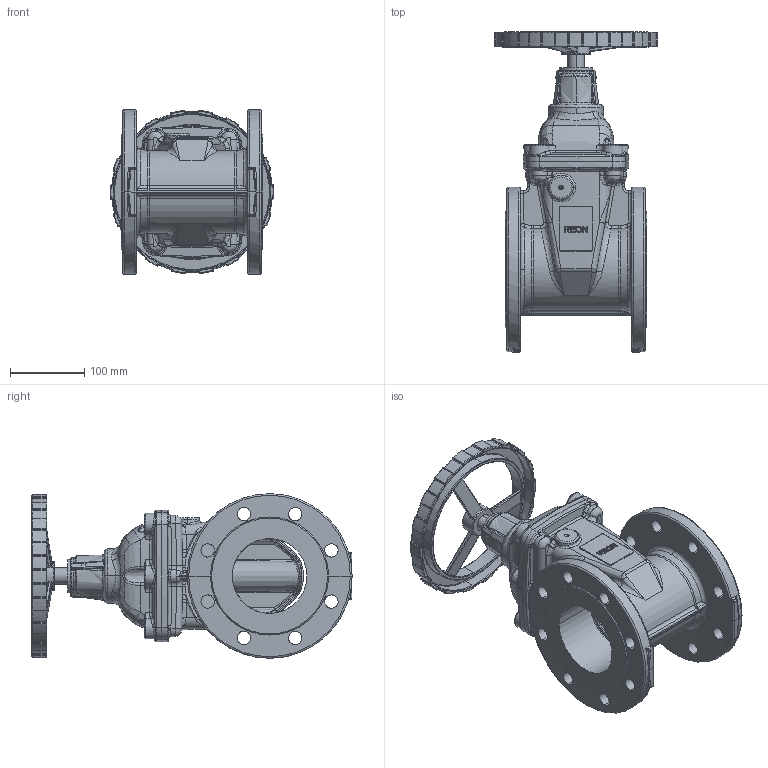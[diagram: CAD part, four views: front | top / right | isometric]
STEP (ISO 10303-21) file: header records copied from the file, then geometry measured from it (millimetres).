
FILE_DESCRIPTION (( 'STEP AP203' ), '1' );
FILE_NAME ('DN100掅概.STEP', '2026-09-16T07:41:35', ( 'Windows 蚚誧' ), ( 'Microsoft' ), 'SwSTEP 2.0', 'SolidWorks 2022', '' );
FILE_SCHEMA (( 'CONFIG_CONTROL_DESIGN' ));
Length unit declared in the file: millimetre
Products named in the file (8): DN100闸阀; DN100阀体; DN100阀盖; DN100上铜母; DN100阀板; D220手轮; hexagon socket head cap screws gb_GB_FASTENER_SCREWS_HSHCS M12X25-N; DN100阀杆
Assembly tree (13 placements, depth 2):
  DN100闸阀
    DN100阀体
    DN100阀盖
    DN100阀板  x2
    DN100上铜母
    D220手轮
    hexagon socket head cap screws gb_GB_FASTENER_SCREWS_HSHCS M12X25-N  x6
    DN100阀杆
Bounding box: 219.95 x 430.1 x 221.1 mm (x, y, z)
Volume: 2748380.5 mm3; surface area: 686357.4 mm2
Topology: 13 solids, 13 shells, 2390 faces, 5588 edges, 3144 vertices
Faces by surface type: bspline 1178, cylinder 581, plane 293, torus 184, sphere 104, cone 50
Entity records: 112695 total; most frequent: CARTESIAN_POINT 75203, ORIENTED_EDGE 9528, DIRECTION 5034, EDGE_CURVE 4764, VERTEX_POINT 2717, EDGE_LOOP 2167, B_SPLINE_CURVE_WITH_KNOTS 2162, AXIS2_PLACEMENT_3D 2135
